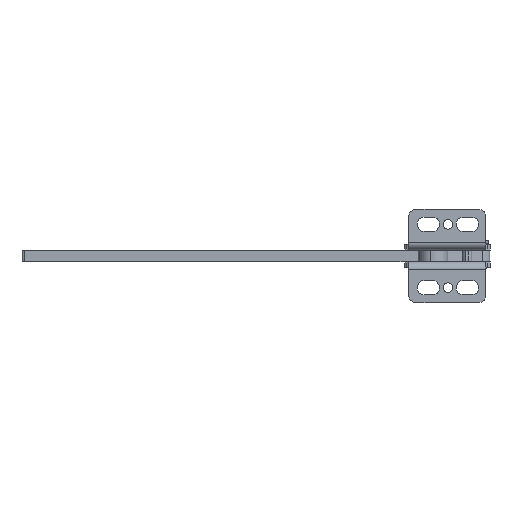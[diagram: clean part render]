
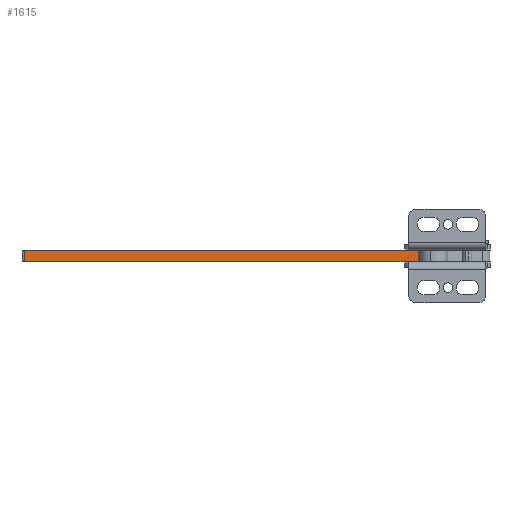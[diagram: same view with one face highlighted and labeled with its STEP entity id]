
A CAD part, front view. The second image highlights one B-rep face of the part: STEP entity #1615.
In plain terms, the highlighted planar face has unit normal (-0.008, -1, 0) as drawn and (0, 1, 0) by its records, which use the part's own axes.
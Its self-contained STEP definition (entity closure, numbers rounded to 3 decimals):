
#120 = VERTEX_POINT ( 'NONE', #15886 ) ;
#124 = CARTESIAN_POINT ( 'NONE',  ( 4560.404, 2126.208, 0. ) ) ;
#287 = EDGE_CURVE ( 'NONE', #11653, #13853, #18247, .T. ) ;
#731 = VECTOR ( 'NONE', #23664, 1000. ) ;
#1358 = ORIENTED_EDGE ( 'NONE', *, *, #14337, .F. ) ;
#1376 = VECTOR ( 'NONE', #23567, 1000. ) ;
#1615 = ADVANCED_FACE ( 'NONE', ( #5493 ), #12923, .T. ) ;
#2112 = VECTOR ( 'NONE', #19411, 1000. ) ;
#2132 = CARTESIAN_POINT ( 'NONE',  ( 4511.404, 2126.208, 0. ) ) ;
#2438 = LINE ( 'NONE', #13783, #2112 ) ;
#3060 = CARTESIAN_POINT ( 'NONE',  ( 4388.094, 2126.208, -5. ) ) ;
#3072 = EDGE_CURVE ( 'NONE', #13252, #20852, #20607, .T. ) ;
#3090 = CARTESIAN_POINT ( 'NONE',  ( 4461.204, 2126.208, -5. ) ) ;
#3217 = VECTOR ( 'NONE', #23501, 1000. ) ;
#3437 = EDGE_CURVE ( 'NONE', #13615, #4323, #8719, .T. ) ;
#3710 = DIRECTION ( 'NONE',  ( 0., 0., 1. ) ) ;
#3818 = EDGE_CURVE ( 'NONE', #120, #20315, #14671, .T. ) ;
#3883 = VECTOR ( 'NONE', #15817, 1000. ) ;
#4323 = VERTEX_POINT ( 'NONE', #12074 ) ;
#5121 = ORIENTED_EDGE ( 'NONE', *, *, #23406, .T. ) ;
#5230 = DIRECTION ( 'NONE',  ( 0., 0., -1. ) ) ;
#5248 = ORIENTED_EDGE ( 'NONE', *, *, #3072, .F. ) ;
#5493 = FACE_OUTER_BOUND ( 'NONE', #21396, .T. ) ;
#6842 = CARTESIAN_POINT ( 'NONE',  ( 4511.404, 2126.208, -0.2 ) ) ;
#7066 = LINE ( 'NONE', #7431, #731 ) ;
#7431 = CARTESIAN_POINT ( 'NONE',  ( 4461.404, 2126.208, -5. ) ) ;
#8230 = ORIENTED_EDGE ( 'NONE', *, *, #19130, .F. ) ;
#8673 = EDGE_CURVE ( 'NONE', #20315, #15699, #18555, .T. ) ;
#8719 = LINE ( 'NONE', #21793, #3883 ) ;
#8967 = CARTESIAN_POINT ( 'NONE',  ( 4560.404, 2126.208, -5. ) ) ;
#9128 = VECTOR ( 'NONE', #11106, 1000. ) ;
#10233 = DIRECTION ( 'NONE',  ( 0., 0., 1. ) ) ;
#10561 = CARTESIAN_POINT ( 'NONE',  ( 4460.404, 2126.208, -0.2 ) ) ;
#10594 = LINE ( 'NONE', #3060, #14559 ) ;
#10947 = CARTESIAN_POINT ( 'NONE',  ( 4511.204, 2126.208, 0. ) ) ;
#10988 = VECTOR ( 'NONE', #19131, 1000. ) ;
#11065 = CARTESIAN_POINT ( 'NONE',  ( 4511.404, 2126.208, -5. ) ) ;
#11106 = DIRECTION ( 'NONE',  ( -1., 0., 0. ) ) ;
#11653 = VERTEX_POINT ( 'NONE', #20964 ) ;
#12039 = LINE ( 'NONE', #13517, #10988 ) ;
#12074 = CARTESIAN_POINT ( 'NONE',  ( 4388.094, 2126.208, 0. ) ) ;
#12476 = ORIENTED_EDGE ( 'NONE', *, *, #23624, .T. ) ;
#12723 = VECTOR ( 'NONE', #22275, 1000. ) ;
#12807 = DIRECTION ( 'NONE',  ( 0., 0., 1. ) ) ;
#12881 = DIRECTION ( 'NONE',  ( 0., 0., 1. ) ) ;
#12923 = PLANE ( 'NONE',  #14614 ) ;
#12963 = CARTESIAN_POINT ( 'NONE',  ( 4511.204, 2126.208, -5. ) ) ;
#13098 = CARTESIAN_POINT ( 'NONE',  ( 4388.094, 2126.208, -5. ) ) ;
#13252 = VERTEX_POINT ( 'NONE', #2132 ) ;
#13401 = VERTEX_POINT ( 'NONE', #19458 ) ;
#13517 = CARTESIAN_POINT ( 'NONE',  ( 4460.404, 2126.208, -0.2 ) ) ;
#13615 = VERTEX_POINT ( 'NONE', #22352 ) ;
#13748 = VERTEX_POINT ( 'NONE', #22705 ) ;
#13754 = VECTOR ( 'NONE', #5230, 1000. ) ;
#13783 = CARTESIAN_POINT ( 'NONE',  ( 4511.404, 2126.208, -5. ) ) ;
#13853 = VERTEX_POINT ( 'NONE', #124 ) ;
#14337 = EDGE_CURVE ( 'NONE', #13853, #13252, #21930, .T. ) ;
#14559 = VECTOR ( 'NONE', #10233, 1000. ) ;
#14614 = AXIS2_PLACEMENT_3D ( 'NONE', #20019, #23543, #12807 ) ;
#14671 = LINE ( 'NONE', #12963, #23968 ) ;
#14836 = CARTESIAN_POINT ( 'NONE',  ( 4460.404, 2126.208, 0. ) ) ;
#15012 = CARTESIAN_POINT ( 'NONE',  ( 4460.404, 2126.208, 0. ) ) ;
#15425 = ORIENTED_EDGE ( 'NONE', *, *, #21630, .T. ) ;
#15699 = VERTEX_POINT ( 'NONE', #23515 ) ;
#15817 = DIRECTION ( 'NONE',  ( -1., 0., 0. ) ) ;
#15886 = CARTESIAN_POINT ( 'NONE',  ( 4511.204, 2126.208, -0.2 ) ) ;
#16350 = ORIENTED_EDGE ( 'NONE', *, *, #19811, .F. ) ;
#17564 = VERTEX_POINT ( 'NONE', #13098 ) ;
#17656 = VECTOR ( 'NONE', #12881, 1000. ) ;
#17874 = LINE ( 'NONE', #10561, #3217 ) ;
#18247 = LINE ( 'NONE', #8967, #17656 ) ;
#18555 = LINE ( 'NONE', #15012, #9128 ) ;
#19130 = EDGE_CURVE ( 'NONE', #13748, #13615, #22106, .T. ) ;
#19131 = DIRECTION ( 'NONE',  ( 1., 0., 0. ) ) ;
#19411 = DIRECTION ( 'NONE',  ( -1., 0., 0. ) ) ;
#19458 = CARTESIAN_POINT ( 'NONE',  ( 4461.404, 2126.208, -0.2 ) ) ;
#19811 = EDGE_CURVE ( 'NONE', #15699, #13401, #7066, .T. ) ;
#19845 = ORIENTED_EDGE ( 'NONE', *, *, #3818, .F. ) ;
#20019 = CARTESIAN_POINT ( 'NONE',  ( 4460.404, 2126.208, -5. ) ) ;
#20315 = VERTEX_POINT ( 'NONE', #10947 ) ;
#20380 = ORIENTED_EDGE ( 'NONE', *, *, #3437, .F. ) ;
#20432 = ORIENTED_EDGE ( 'NONE', *, *, #21710, .T. ) ;
#20607 = LINE ( 'NONE', #11065, #13754 ) ;
#20852 = VERTEX_POINT ( 'NONE', #6842 ) ;
#20964 = CARTESIAN_POINT ( 'NONE',  ( 4560.404, 2126.208, -5. ) ) ;
#21396 = EDGE_LOOP ( 'NONE', ( #19845, #20432, #5248, #1358, #23153, #5121, #12476, #20380, #8230, #15425, #16350, #22341 ) ) ;
#21630 = EDGE_CURVE ( 'NONE', #13748, #13401, #12039, .T. ) ;
#21710 = EDGE_CURVE ( 'NONE', #120, #20852, #17874, .T. ) ;
#21793 = CARTESIAN_POINT ( 'NONE',  ( 4460.404, 2126.208, 0. ) ) ;
#21930 = LINE ( 'NONE', #14836, #12723 ) ;
#22106 = LINE ( 'NONE', #3090, #1376 ) ;
#22275 = DIRECTION ( 'NONE',  ( -1., 0., 0. ) ) ;
#22341 = ORIENTED_EDGE ( 'NONE', *, *, #8673, .F. ) ;
#22352 = CARTESIAN_POINT ( 'NONE',  ( 4461.204, 2126.208, 0. ) ) ;
#22705 = CARTESIAN_POINT ( 'NONE',  ( 4461.204, 2126.208, -0.2 ) ) ;
#23153 = ORIENTED_EDGE ( 'NONE', *, *, #287, .F. ) ;
#23406 = EDGE_CURVE ( 'NONE', #11653, #17564, #2438, .T. ) ;
#23501 = DIRECTION ( 'NONE',  ( 1., 0., 0. ) ) ;
#23515 = CARTESIAN_POINT ( 'NONE',  ( 4461.404, 2126.208, 0. ) ) ;
#23543 = DIRECTION ( 'NONE',  ( 0., 1., 0. ) ) ;
#23567 = DIRECTION ( 'NONE',  ( 0., 0., 1. ) ) ;
#23624 = EDGE_CURVE ( 'NONE', #17564, #4323, #10594, .T. ) ;
#23664 = DIRECTION ( 'NONE',  ( 0., 0., -1. ) ) ;
#23968 = VECTOR ( 'NONE', #3710, 1000. ) ;
